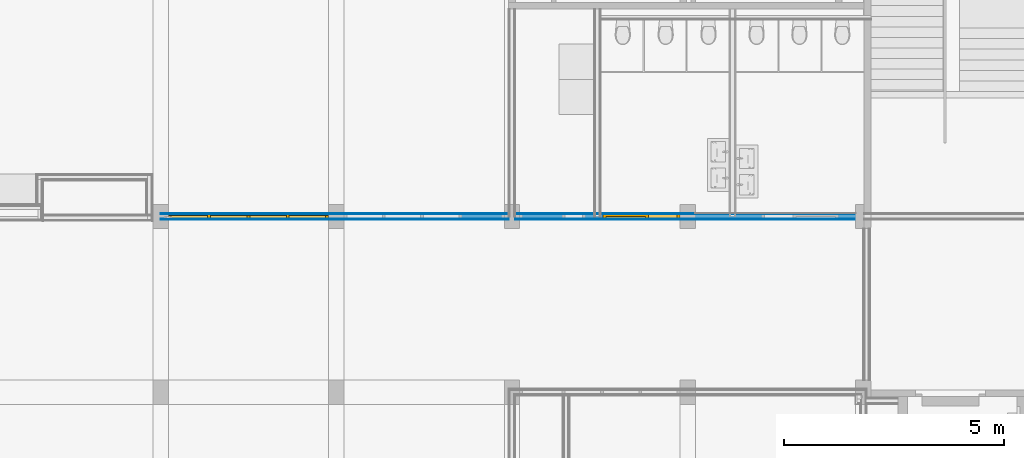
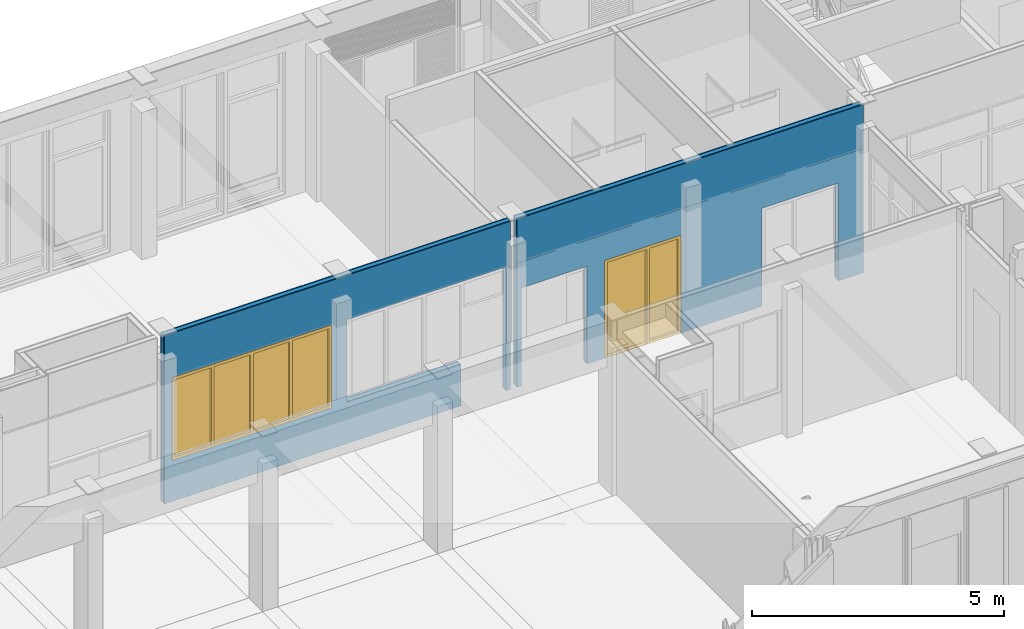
# One storey, part 61 of 109: 5 building element parts, 1 door, 1 window, 5 openings, 1 element without a shape of its own.
"""IFC2X3 building model written with IfcOpenShell, lengths in millimetres."""

from ifc_helpers import new_model, entity, si_unit, converted_unit, derived_unit, money_unit, direction, frame, origin_with_axes, place, context, subcontext, project, spatial, open_shell, faceted_brep, surface_model, material, type_object, element, fill, aggregate, save


model = new_model("IFC2X3")

# Units and contexts
model_context = context("Model", 3, precision=0.01, world=origin_with_axes(), true_north=direction((0.0, 1.0)))
body_context = subcontext(model_context, "Body", "Model", "MODEL_VIEW")
ifc_project = project(units=[si_unit("LENGTHUNIT", "METRE", prefix="MILLI"), si_unit("AREAUNIT", "SQUARE_METRE"), si_unit("VOLUMEUNIT", "CUBIC_METRE"), converted_unit("PLANEANGLEUNIT", "DEGREE", entity("IfcPlaneAngleMeasure", 0.0174532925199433), si_unit("PLANEANGLEUNIT", "RADIAN"), dimensions=[0, 0, 0, 0, 0, 0, 0]), money_unit("EUR"), converted_unit("TIMEUNIT", "Year", entity("IfcTimeMeasure", 31557600.0), si_unit("TIMEUNIT", "SECOND"), dimensions=[0, 0, 1, 0, 0, 0, 0]), si_unit("MASSUNIT", "GRAM", prefix="KILO"), si_unit("THERMODYNAMICTEMPERATUREUNIT", "DEGREE_CELSIUS"), si_unit("LUMINOUSINTENSITYUNIT", "LUMEN"), si_unit("ENERGYUNIT", "JOULE", prefix="MEGA"), derived_unit("THERMALCONDUCTANCEUNIT", [(si_unit("POWERUNIT", "WATT"), 1), (si_unit("LENGTHUNIT", "METRE"), -1), (si_unit("THERMODYNAMICTEMPERATUREUNIT", "KELVIN"), -1)]), derived_unit("SPECIFICHEATCAPACITYUNIT", [(si_unit("ENERGYUNIT", "JOULE"), 1), (si_unit("MASSUNIT", "GRAM", prefix="KILO"), -1), (si_unit("THERMODYNAMICTEMPERATUREUNIT", "KELVIN"), -1)]), derived_unit("MASSDENSITYUNIT", [(si_unit("MASSUNIT", "GRAM", prefix="KILO"), 1), (si_unit("VOLUMEUNIT", "CUBIC_METRE"), -1)])], contexts=[model_context])

# Site, building, storey
site_placement = place(None, origin_with_axes())
site = spatial("IfcSite", under=ifc_project, at=site_placement, Name="<site naam>", CompositionType="ELEMENT")
building_placement = place(site_placement, origin_with_axes())
building = spatial("IfcBuilding", under=site, at=building_placement, Name="<Naam gebouw>", CompositionType="ELEMENT")
storey_placement = place(building_placement, origin_with_axes())
storey = spatial("IfcBuildingStorey", under=building, at=storey_placement, Name="00 Begane grond", CompositionType="ELEMENT", Elevation=0.0)

# Window
window_style = type_object("IfcWindowStyle", Name="R2 bl ol 27", ConstructionType="NOTDEFINED", OperationType="DOUBLE_PANEL_VERTICAL", ParameterTakesPrecedence=False, Sizeable=False)
wall_placement = place(storey_placement, frame((32000.05040030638, 11999.96371028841, 0.0), z_axis=(0.0, 0.0, 1.0), x_axis=(0.999999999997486, 2.242345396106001e-06, 0.0)))
opening_1_placement = place(wall_placement, frame((1999.982031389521, 0.0, 1000.0), z_axis=(0.0, 0.0, 1.0), x_axis=(1.0, 0.0, 0.0)))
window_placement = place(opening_1_placement, frame((-1824.966951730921, 0.0, 0.0), z_axis=(0.0, 0.0, 1.0), x_axis=(1.0, 0.0, 0.0)))
window = element("IfcWindow", 1, at=window_placement, inside=storey, type_object=window_style, Name="22_BI-E-01_305", ObjectType="WINDOW", OverallHeight=2000.0, OverallWidth=3649.93, context=body_context, shape_type="SurfaceModel", body=[
    faceted_brep([(3582.933881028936, -85.0084266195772, 1933.0), (3649.933881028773, -85.00857685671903, 1933.0), (3649.934136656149, 28.99142314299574, 1933.0), (3582.934136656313, 28.99157338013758, 1933.0), (3582.933881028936, -85.0084266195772, 66.99999999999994), (3649.933881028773, -85.00857685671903, 66.99999999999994), (3649.934136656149, 28.99142314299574, 66.99999999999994), (3582.934136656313, 28.99157338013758, 66.99999999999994)], [[[0, 1, 2, 3]], [[0, 4, 5, 1]], [[1, 5, 6, 2]], [[3, 2, 6, 7]], [[4, 0, 3, 7]], [[5, 4, 7, 6]]]),
    faceted_brep([(66.99997757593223, -85.00054268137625, 66.99999999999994), (-2.242389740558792e-05, -85.00039244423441, 66.99999999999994), (0.0002332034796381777, 28.99960755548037, 66.99999999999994), (67.00023320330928, 28.99945731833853, 66.99999999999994), (66.99997757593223, -85.00054268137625, 1933.0), (-2.242389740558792e-05, -85.00039244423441, 1933.0), (0.0002332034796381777, 28.99960755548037, 1933.0), (67.00023320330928, 28.99945731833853, 1933.0)], [[[0, 1, 2, 3]], [[0, 4, 5, 1]], [[1, 5, 6, 2]], [[3, 2, 6, 7]], [[4, 0, 3, 7]], [[5, 4, 7, 6]]]),
    faceted_brep([(1858.466929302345, -85.00455976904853, 66.99999999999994), (1791.466929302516, -85.00440953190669, 66.99999999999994), (1791.467184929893, 28.99559046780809, 66.99999999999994), (1858.467184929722, 28.99544023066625, 66.99999999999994), (1858.466929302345, -85.00455976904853, 1933.0), (1791.466929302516, -85.00440953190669, 1933.0), (1791.467184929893, 28.99559046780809, 1933.0), (1858.467184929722, 28.99544023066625, 1933.0)], [[[0, 1, 2, 3]], [[0, 4, 5, 1]], [[1, 5, 6, 2]], [[3, 2, 6, 7]], [[4, 0, 3, 7]], [[5, 4, 7, 6]]]),
    faceted_brep([(3582.933881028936, -85.0084266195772, 66.99999999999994), (3649.933881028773, -85.00857685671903, 66.99999999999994), (3649.934136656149, 28.99142314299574, 66.99999999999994), (3582.934136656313, 28.99157338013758, 66.99999999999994), (1858.466929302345, -85.00455976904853, 66.99999999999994), (1791.466929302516, -85.00440953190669, 66.99999999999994), (66.99997757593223, -85.00054268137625, 66.99999999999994), (-2.242389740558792e-05, -85.00039244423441, 66.99999999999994), (-2.242389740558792e-05, -85.00039244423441, 0.0), (3649.933881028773, -85.00857685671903, 0.0), (3649.934136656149, 28.99142314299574, 0.0), (0.0002332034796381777, 28.99960755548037, 0.0), (0.0002332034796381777, 28.99960755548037, 66.99999999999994), (67.00023320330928, 28.99945731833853, 66.99999999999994), (1791.467184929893, 28.99559046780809, 66.99999999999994), (1858.467184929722, 28.99544023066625, 66.99999999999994)], [[[0, 1, 2, 3]], [[0, 4, 5, 6, 7, 8, 9, 1]], [[1, 9, 10, 2]], [[3, 2, 10, 11, 12, 13, 14, 15]], [[4, 0, 3, 15]], [[5, 4, 15, 14]], [[6, 5, 14, 13]], [[7, 6, 13, 12]], [[8, 7, 12, 11]], [[9, 8, 11, 10]]]),
    faceted_brep([(1858.466929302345, -85.00455976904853, 1933.0), (1791.466929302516, -85.00440953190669, 1933.0), (1791.467184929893, 28.99559046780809, 1933.0), (1858.467184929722, 28.99544023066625, 1933.0), (3582.933881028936, -85.0084266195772, 1933.0), (3649.933881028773, -85.00857685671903, 1933.0), (3649.933881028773, -85.00857685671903, 2000.0), (-2.242389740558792e-05, -85.00039244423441, 2000.0), (-2.242389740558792e-05, -85.00039244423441, 1933.0), (66.99997757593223, -85.00054268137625, 1933.0), (67.00023320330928, 28.99945731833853, 1933.0), (0.0002332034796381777, 28.99960755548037, 1933.0), (0.0002332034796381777, 28.99960755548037, 2000.0), (3649.934136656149, 28.99142314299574, 2000.0), (3649.934136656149, 28.99142314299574, 1933.0), (3582.934136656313, 28.99157338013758, 1933.0)], [[[0, 1, 2, 3]], [[0, 4, 5, 6, 7, 8, 9, 1]], [[1, 9, 10, 2]], [[3, 2, 10, 11, 12, 13, 14, 15]], [[4, 0, 3, 15]], [[5, 4, 15, 14]], [[6, 5, 14, 13]], [[7, 6, 13, 12]], [[8, 7, 12, 11]], [[9, 8, 11, 10]]]),
    surface_model("IfcShellBasedSurfaceModel", [(3582.933993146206, -35.0084266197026, 66.99999999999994), (3582.933993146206, -35.0084266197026, 1933.0), (1858.467041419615, -35.00455976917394, 1933.0), (1858.467041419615, -35.00455976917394, 66.99999999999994)], [open_shell([[[0, 1, 2, 3]]])]),
    surface_model("IfcShellBasedSurfaceModel", [(3582.93403799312, -15.00842661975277, 66.99999999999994), (1858.467086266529, -15.0045597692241, 66.99999999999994), (1858.467086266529, -15.0045597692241, 1933.0), (3582.93403799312, -15.00842661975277, 1933.0)], [open_shell([[[0, 1, 2, 3]]])]),
    faceted_brep([(2754.200411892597, -82.00656831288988, 66.99999999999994), (2687.200411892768, -82.00641807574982, 66.99999999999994), (2687.200667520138, 31.99358192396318, 66.99999999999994), (2754.200667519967, 31.99343168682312, 66.99999999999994), (2754.200411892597, -82.00656831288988, 1933.0), (2687.200411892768, -82.00641807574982, 1933.0), (2687.200667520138, 31.99358192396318, 1933.0), (2754.200667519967, 31.99343168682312, 1933.0)], [[[0, 1, 2, 3]], [[0, 4, 5, 1]], [[1, 5, 6, 2]], [[3, 2, 6, 7]], [[4, 0, 3, 7]], [[5, 4, 7, 6]]]),
    surface_model("IfcShellBasedSurfaceModel", [(1791.467041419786, -35.0044095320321, 66.99999999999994), (1791.467041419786, -35.0044095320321, 1933.0), (67.00008969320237, -35.00054268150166, 1933.0), (67.00008969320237, -35.00054268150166, 66.99999999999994)], [open_shell([[[0, 1, 2, 3]]])]),
    surface_model("IfcShellBasedSurfaceModel", [(1791.467086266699, -15.00440953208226, 66.99999999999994), (67.00013454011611, -15.00054268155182, 66.99999999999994), (67.00013454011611, -15.00054268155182, 1933.0), (1791.467086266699, -15.00440953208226, 1933.0)], [open_shell([[[0, 1, 2, 3]]])]),
    faceted_brep([(962.7334601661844, -82.00255122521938, 66.99999999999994), (895.7334601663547, -82.00240098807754, 66.99999999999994), (895.7337157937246, 31.99759901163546, 66.99999999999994), (962.7337157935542, 31.99744877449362, 66.99999999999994), (962.7334601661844, -82.00255122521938, 1933.0), (895.7334601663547, -82.00240098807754, 1933.0), (895.7337157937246, 31.99759901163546, 1933.0), (962.7337157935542, 31.99744877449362, 1933.0)], [[[0, 1, 2, 3]], [[0, 4, 5, 1]], [[1, 5, 6, 2]], [[3, 2, 6, 7]], [[4, 0, 3, 7]], [[5, 4, 7, 6]]]),
])

# Door
door_style = type_object("IfcDoorStyle", Name="D1 zl1-b 27", ConstructionType="NOTDEFINED", OperationType="SINGLE_SWING_LEFT", ParameterTakesPrecedence=False, Sizeable=False)
opening_2_placement = place(wall_placement, frame((10949.95021639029, 0.0, 0.0), z_axis=(0.0, 0.0, 1.0), x_axis=(1.0, 0.0, 0.0)))
door_placement = place(opening_2_placement, frame((-874.999999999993, 0.0, 0.0), z_axis=(0.0, 0.0, 1.0), x_axis=(1.0, 0.0, 0.0)))
door = element("IfcDoor", 2, at=door_placement, inside=storey, type_object=door_style, Name="22_BI-C-01_305", ObjectType="DOOR", OverallHeight=2367.0, OverallWidth=1750.0, context=body_context, shape_type="SurfaceModel", body=[
    faceted_brep([(984.0001659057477, -1.024797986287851, 12.00000000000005), (984.0002555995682, 38.97520201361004, 12.00000000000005), (50.00025560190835, 38.97729636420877, 11.99999999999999), (50.00016590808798, -1.022703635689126, 11.99999999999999), (67.00016590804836, -1.02274175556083, 11.99999999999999), (66.99999997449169, -75.02274175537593, 11.99999999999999), (966.9999999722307, -75.02475986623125, 12.00000000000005), (967.0001659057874, -1.024759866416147, 12.00000000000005), (984.0001659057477, -1.024797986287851, 0.0), (984.0002555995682, 38.97520201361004, 0.0), (50.00025560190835, 38.97729636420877, 0.0), (50.00016590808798, -1.022703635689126, 0.0), (67.00016590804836, -1.02274175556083, 0.0), (66.99999997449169, -75.02274175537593, 0.0), (966.9999999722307, -75.02475986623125, 0.0), (967.0001659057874, -1.024759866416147, 0.0)], [[[0, 1, 2, 3, 4, 5, 6, 7]], [[8, 9, 1, 0]], [[9, 10, 2, 1]], [[11, 3, 2, 10]], [[3, 11, 12, 4]], [[5, 4, 12, 13]], [[6, 5, 13, 14]], [[14, 15, 7, 6]], [[7, 15, 8, 0]], [[15, 14, 13, 12, 11, 10, 9, 8]]]),
    faceted_brep([(1750.000255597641, 38.97348437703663, 0.0), (1749.999999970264, -75.02651562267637, 0.0), (1682.999999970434, -75.02636538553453, 0.0), (1683.000255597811, 38.97363461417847, 0.0), (1750.000255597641, 38.97348437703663, 2300.0), (1749.999999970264, -75.0265156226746, 2300.0), (1682.999999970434, -75.02636538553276, 2300.0), (1682.999999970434, -75.02636538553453, 67.0), (1683.000255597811, 38.97363461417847, 66.99999999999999), (1683.000255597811, 38.97363461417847, 2300.0)], [[[0, 1, 2, 3]], [[4, 5, 1, 0]], [[1, 5, 6, 7, 2]], [[3, 2, 7, 8]], [[0, 3, 8, 9, 4]], [[9, 6, 5, 4]], [[8, 7, 6, 9]]]),
    faceted_brep([(967.0001659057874, -1.024759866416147, 0.0), (966.9999999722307, -75.02475986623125, 0.0), (966.9999999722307, -75.02475986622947, 2300.0), (967.0001659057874, -1.024759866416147, 2300.0), (984.0001659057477, -1.024797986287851, 0.0), (984.0002555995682, 38.97520201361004, 0.0), (1034.000255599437, 38.97508989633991, 0.0), (1033.99999997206, -75.02491010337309, 0.0), (1033.99999997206, -75.02491010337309, 66.99999999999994), (1033.99999997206, -75.02491010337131, 2300.0), (984.0001659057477, -1.024797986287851, 2300.0), (1034.000255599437, 38.97508989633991, 2300.0), (984.0002555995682, 38.97520201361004, 2300.0), (1034.000255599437, 38.97508989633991, 66.99999999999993)], [[[0, 1, 2, 3]], [[4, 5, 6, 7, 1, 0]], [[7, 8, 9, 2, 1]], [[10, 3, 2, 9, 11, 12]], [[10, 4, 0, 3]], [[12, 5, 4, 10]], [[12, 11, 13, 6, 5]], [[6, 13, 8, 7]], [[13, 11, 9, 8]]]),
    faceted_brep([(1683.000255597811, 38.97363461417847, 66.99999999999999), (1682.999999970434, -75.02636538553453, 67.0), (1682.999999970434, -75.02636538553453, 0.0), (1683.000255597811, 38.97363461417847, 0.0), (1034.000255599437, 38.97508989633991, 66.99999999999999), (1033.99999997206, -75.02491010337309, 67.0), (1033.99999997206, -75.02491010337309, 0.0), (1034.000255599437, 38.97508989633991, 0.0)], [[[0, 1, 2, 3]], [[4, 5, 1, 0]], [[1, 5, 6, 2]], [[3, 2, 6, 7]], [[0, 3, 7, 4]], [[7, 6, 5, 4]]]),
    faceted_brep([(50.00016590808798, -1.022703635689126, 2300.0), (50.00025560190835, 38.97729636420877, 2300.0), (0.0002556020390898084, 38.9774084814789, 2300.0), (-2.533795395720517e-08, -75.02259151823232, 2300.0), (66.99999997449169, -75.02274175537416, 2300.0), (67.00016590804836, -1.02274175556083, 2300.0), (50.00016590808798, -1.022703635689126, 0.0), (50.00025560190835, 38.97729636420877, 0.0), (0.0002556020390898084, 38.9774084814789, 0.0), (-2.533795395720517e-08, -75.0225915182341, 0.0), (66.99999997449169, -75.02274175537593, 0.0), (67.00016590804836, -1.02274175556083, 0.0)], [[[0, 1, 2, 3, 4, 5]], [[0, 6, 7, 1]], [[7, 8, 2, 1]], [[2, 8, 9, 3]], [[3, 9, 10, 4]], [[5, 4, 10, 11]], [[5, 11, 6, 0]], [[6, 11, 10, 9, 8, 7]]]),
    faceted_brep([(984.0002555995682, 38.97520201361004, 2317.0), (50.00025560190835, 38.97729636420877, 2317.0), (50.00025560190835, 38.97729636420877, 2300.0), (0.0002556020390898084, 38.9774084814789, 2300.0), (0.0002556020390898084, 38.9774084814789, 2367.0), (1750.000255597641, 38.97348437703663, 2367.0), (1750.000255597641, 38.97348437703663, 2300.0), (1683.000255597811, 38.97363461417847, 2300.0), (1034.000255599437, 38.97508989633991, 2300.0), (984.0002555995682, 38.97520201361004, 2300.0), (984.0001659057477, -1.024797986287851, 2317.0), (50.00016590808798, -1.022703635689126, 2317.0), (50.00016590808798, -1.022703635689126, 2300.0), (67.00016590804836, -1.02274175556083, 2300.0), (66.99999997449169, -75.02274175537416, 2300.0), (-2.533795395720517e-08, -75.02259151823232, 2300.0), (-2.533795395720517e-08, -75.02259151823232, 2367.0), (1749.999999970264, -75.0265156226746, 2367.0), (1749.999999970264, -75.0265156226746, 2300.0), (1682.999999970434, -75.02636538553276, 2300.0), (1033.99999997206, -75.02491010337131, 2300.0), (984.0001659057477, -1.024797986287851, 2300.0), (966.9999999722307, -75.02475986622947, 2300.0)], [[[0, 1, 2, 3, 4, 5, 6, 7, 8, 9]], [[0, 10, 11, 1]], [[1, 11, 12, 2]], [[12, 13, 14, 15, 3, 2]], [[4, 3, 15, 16]], [[5, 4, 16, 17]], [[6, 5, 17, 18]], [[7, 6, 18, 19]], [[8, 7, 19, 20]], [[21, 9, 8, 20, 22, 14, 13]], [[9, 21, 10, 0]], [[12, 11, 10, 21, 13]], [[14, 22, 20, 19, 18, 17, 16, 15]]]),
    faceted_brep([(50.00025560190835, 38.97729636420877, 11.99999999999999), (984.0002555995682, 38.97520201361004, 11.99999999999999), (984.0001659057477, -1.024797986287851, 11.99999999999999), (50.00016590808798, -1.022703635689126, 11.99999999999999), (50.00025560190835, 38.97729636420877, 2317.0), (984.0002555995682, 38.97520201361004, 2317.0), (984.0001659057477, -1.024797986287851, 2317.0), (50.00016590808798, -1.022703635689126, 2317.0)], [[[0, 1, 2, 3]], [[0, 4, 5, 1]], [[1, 5, 6, 2]], [[3, 2, 6, 7]], [[4, 0, 3, 7]], [[5, 4, 7, 6]]]),
    surface_model("IfcShellBasedSurfaceModel", [(1683.000134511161, -15.02636538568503, 66.99999999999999), (1034.000134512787, -15.02491010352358, 66.99999999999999), (1034.000134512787, -15.02491010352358, 2300.0), (1683.000134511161, -15.02636538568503, 2300.0)], [open_shell([[[0, 1, 2, 3]]])]),
    surface_model("IfcShellBasedSurfaceModel", [(1683.000107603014, -27.02636538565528, 66.99999999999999), (1683.000107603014, -27.02636538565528, 2300.0), (1034.000107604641, -27.02491010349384, 2300.0), (1034.000107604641, -27.02491010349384, 66.99999999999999)], [open_shell([[[0, 1, 2, 3]]])]),
])

# Wall, opening
wall_type = type_object("IfcWallType", Name="MS-01 GF 150 ECO DGS/2.100.2.A 150", PredefinedType="NOTDEFINED")
wall = element("IfcWall", 3, at=wall_placement, inside=storey, type_object=wall_type, Name="22_Binnenwand_MS-01")
opening_1 = element("IfcOpeningElement", 4, at=opening_1_placement, cuts=wall, Name="22_BI-E-01_305", context=body_context, shape_type="Brep", body=[
    faceted_brep([(1824.967290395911, 76.02730055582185, 2000.0), (1824.967290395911, 76.02730055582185, 0.0), (-1824.966613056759, 76.03548496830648, 0.0), (-1824.966613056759, 76.03548496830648, 2000.0), (1824.966949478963, -76.00857685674, 2000.0), (1824.966949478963, -76.00857685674, 0.0), (-1824.966953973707, -76.00039244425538, 0.0), (-1824.966953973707, -76.00039244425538, 2000.0)], [[[0, 1, 2, 3]], [[4, 5, 1, 0]], [[5, 6, 2, 1]], [[6, 7, 3, 2]], [[7, 4, 0, 3]], [[6, 5, 4, 7]]]),
])

fill(opening_1, window)

# Opening
opening_2 = element("IfcOpeningElement", 5, at=opening_2_placement, cuts=wall, Name="22_BI-C-01_305", context=body_context, shape_type="Brep", body=[
    faceted_brep([(875.0003386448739, 76.00936178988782, 2367.0), (875.0003386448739, 76.00936178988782, 0.0), (-874.9996613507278, 76.0132858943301, 0.0), (-874.9996613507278, 76.0132858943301, 2367.0), (874.9999977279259, -76.02651562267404, 2367.0), (874.9999977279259, -76.02651562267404, 0.0), (-875.0000022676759, -76.02259151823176, 0.0), (-875.0000022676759, -76.02259151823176, 2367.0)], [[[0, 1, 2, 3]], [[4, 5, 1, 0]], [[5, 6, 2, 1]], [[6, 7, 3, 2]], [[7, 4, 0, 3]], [[6, 5, 4, 7]]]),
])

fill(opening_2, door)

opening_3_placement = place(wall_placement, frame((8924.950216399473, 0.0, 0.0), z_axis=(0.0, 0.0, 1.0), x_axis=(1.0, 0.0, 0.0)))
element("IfcOpeningElement", 6, at=opening_3_placement, cuts=wall, Name="22_BI-C-02 sp_305", context=body_context, shape_type="Brep", body=[
    faceted_brep([(750.000338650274, 76.0141828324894, 2367.0), (750.000338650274, 76.0141828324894, 0.0), (-749.99966134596, 76.01754635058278, 0.0), (-749.99966134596, 76.01754635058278, 2367.0), (749.999997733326, -76.02169458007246, 2367.0), (749.999997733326, -76.02169458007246, 0.0), (-750.0000022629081, -76.01833106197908, 0.0), (-750.0000022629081, -76.01833106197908, 2367.0)], [[[0, 1, 2, 3]], [[4, 5, 1, 0]], [[5, 6, 2, 1]], [[6, 7, 3, 2]], [[7, 4, 0, 3]], [[6, 5, 4, 7]]]),
])

opening_4_placement = place(wall_placement, frame((14554.32530861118, 0.0, 0.0), z_axis=(0.0, 0.0, 1.0), x_axis=(1.0, 0.0, 0.0)))
element("IfcOpeningElement", 7, at=opening_4_placement, cuts=wall, Name="22_BI-C-01 sp_305", context=body_context, shape_type="Brep", body=[
    faceted_brep([(875.0003386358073, 76.00127953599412, 2367.0), (875.0003386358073, 76.00127953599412, 0.0), (-874.9996613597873, 76.00520364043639, 0.0), (-874.9996613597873, 76.00520364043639, 2367.0), (874.9999977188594, -76.03459787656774, 2367.0), (874.9999977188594, -76.03459787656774, 0.0), (-875.0000022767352, -76.03067377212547, 0.0), (-875.0000022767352, -76.03067377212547, 2367.0)], [[[0, 1, 2, 3]], [[4, 5, 1, 0]], [[5, 6, 2, 1]], [[6, 7, 3, 2]], [[7, 4, 0, 3]], [[6, 5, 4, 7]]]),
])

opening_5_placement = place(wall_placement, frame((5999.95021640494, 0.0, 0.0), z_axis=(0.0, 0.0, 1.0), x_axis=(1.0, 0.0, 0.0)))
element("IfcOpeningElement", 8, at=opening_5_placement, cuts=wall, Name="22_BI-E-02_305", context=body_context, shape_type="Brep", body=[
    faceted_brep([(1825.000338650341, 76.01833117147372, 3000.0), (1825.000338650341, 76.01833117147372, 0.0), (791.0003386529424, 76.02064975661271, 0.0), (791.0003386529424, 76.02064975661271, 1000.0), (-1824.999661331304, 76.02651573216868, 1000.0), (-1824.999661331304, 76.02651573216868, 3000.0), (1824.999997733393, -76.01754624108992, 3000.0), (1824.999997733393, -76.01754624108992, 0.0), (790.9999977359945, -76.01522765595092, 0.0), (790.9999977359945, -76.01522765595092, 1000.0), (-1825.000002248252, -76.00936168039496, 1000.0), (-1825.000002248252, -76.00936168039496, 3000.0)], [[[0, 1, 2, 3, 4, 5]], [[6, 7, 1, 0]], [[7, 8, 2, 1]], [[8, 9, 3, 2]], [[9, 10, 4, 3]], [[10, 11, 5, 4]], [[11, 6, 0, 5]], [[8, 7, 6, 11, 10, 9]]]),
])

# Building element part
ifc_material_1 = material(Name="gipsplaat")
building_element_part_1_placement = place(wall_placement, origin_with_axes())
building_element_part_1 = element("IfcBuildingElementPart", 9, at=building_element_part_1_placement, material=ifc_material_1, Name="gipsplaat", context=body_context, shape_type="Brep", body=[
    faceted_brep([(8174.949767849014, 74.98166893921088, 3.000000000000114), (8174.949767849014, 74.98166893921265, 0.0), (8074.949767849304, 74.98189317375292, 0.0), (8074.949767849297, 74.98189317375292, 3000.0), (9874.949767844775, 74.97785695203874, 3000.0), (9874.949767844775, 74.97785695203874, 3040.0), (8074.949767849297, 74.98189317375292, 3040.0), (8074.949767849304, 74.98189317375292, 4070.0), (15999.94976787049, 74.9641225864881, 4070.0), (15999.94976787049, 74.9641225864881, 3040.0), (10024.9497678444, 74.97752060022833, 3040.0), (10024.9497678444, 74.97752060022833, 3000.0), (15999.94976787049, 74.9641225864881, 3000.0), (15999.94976787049, 74.9641225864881, 0.0), (9874.949767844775, 74.97785695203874, 0.0), (9874.949767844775, 74.97785695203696, 3.000000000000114), (8174.949764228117, 73.3668869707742, 3.000000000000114), (8174.949764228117, 73.3668869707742, 0.0), (9874.949764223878, 73.36307498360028, 0.0), (15999.94973984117, 62.46412258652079, 0.0), (8074.949739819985, 62.48189317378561, 0.0), (8074.949765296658, 73.84351580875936, 3000.0), (8074.949739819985, 62.48189317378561, 4070.0), (8074.949765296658, 73.84351580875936, 3040.0), (9874.949765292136, 73.83947958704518, 3000.0), (9874.949765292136, 73.83947958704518, 3040.0), (15999.94973984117, 62.46412258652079, 4070.0), (15999.94976531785, 73.82574522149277, 3000.0), (15999.94976531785, 73.82574522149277, 3040.0), (10024.94976529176, 73.83914323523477, 3040.0), (10024.94976529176, 73.83914323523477, 3000.0), (9874.949764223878, 73.36307498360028, 3.000000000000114)], [[[0, 1, 2, 3, 4, 5, 6, 7, 8, 9, 10, 11, 12, 13, 14, 15]], [[1, 0, 16, 17]], [[18, 14, 13, 19, 20, 2, 1, 17]], [[21, 3, 2, 20, 22, 7, 6, 23]], [[4, 3, 21, 24]], [[5, 4, 24, 25]], [[6, 5, 25, 23]], [[22, 26, 8, 7]], [[27, 28, 9, 8, 26, 19, 13, 12]], [[10, 9, 28, 29]], [[11, 10, 29, 30]], [[27, 12, 11, 30]], [[15, 14, 18, 31]], [[0, 15, 31, 16]], [[18, 17, 16, 31]], [[20, 19, 26, 22]], [[21, 23, 25, 24]], [[28, 27, 30, 29]]]),
    faceted_brep([(12174.94982266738, 74.85548343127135, 3560.0), (12174.94982266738, 74.85548343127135, 3600.0), (12174.94981983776, 73.59358608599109, 3600.0), (12174.94981983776, 73.59358608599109, 3560.0), (15824.94983563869, 74.8472988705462, 3560.0), (15824.94983563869, 74.8472988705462, 3600.0), (15824.94983280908, 73.58540152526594, 3600.0), (15824.94983280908, 73.58540152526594, 3560.0)], [[[0, 1, 2, 3]], [[4, 5, 1, 0]], [[1, 5, 6, 2]], [[3, 2, 6, 7]], [[0, 3, 7, 4]], [[7, 6, 5, 4]]]),
    faceted_brep([(7924.949767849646, 74.98222952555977, 3.000000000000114), (0.0001681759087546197, 74.99999999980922, 3.000000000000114), (0.0001681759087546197, 74.999999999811, 4070.0), (7924.949767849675, 74.98222952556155, 4070.0), (7824.811571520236, 74.98245406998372, 3700.0), (7824.949806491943, 74.982453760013, 3700.0), (7824.949806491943, 74.982453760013, 3740.0), (7824.811571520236, 74.98245406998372, 3740.0), (7924.949739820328, 62.48222952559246, 3.000000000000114), (0.0001401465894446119, 62.4999999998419, 3.000000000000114), (0.0001401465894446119, 62.4999999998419, 4070.0), (7924.949739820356, 62.48222952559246, 4070.0), (7824.811552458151, 66.48149438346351, 3700.0), (7824.949787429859, 66.4814940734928, 3700.0), (7824.949787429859, 66.4814940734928, 3740.0), (7824.811552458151, 66.48149438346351, 3740.0)], [[[0, 1, 2, 3], [4, 5, 6, 7]], [[1, 0, 8, 9]], [[1, 9, 10, 2]], [[11, 3, 2, 10]], [[8, 0, 3, 11]], [[5, 4, 12, 13]], [[6, 5, 13, 14]], [[7, 6, 14, 15]], [[4, 7, 15, 12]], [[9, 8, 11, 10]], [[12, 15, 14, 13]]]),
])

building_element_part_2_placement = place(wall_placement, origin_with_axes())
building_element_part_2 = element("IfcBuildingElementPart", 10, at=building_element_part_2_placement, material=ifc_material_1, Name="gipsplaat", context=body_context, shape_type="Brep", body=[
    faceted_brep([(8074.949711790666, 49.98189317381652, 4070.0), (15999.94971181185, 49.9641225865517, 4070.0), (15999.94973984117, 62.46412258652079, 4070.0), (8074.949739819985, 62.48189317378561, 4070.0), (8074.949711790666, 49.98189317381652, 0.0), (15999.94971181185, 49.9641225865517, 0.0), (15999.94973984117, 62.46412258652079, 0.0), (8074.949739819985, 62.48189317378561, 0.0)], [[[0, 1, 2, 3]], [[4, 5, 1, 0]], [[2, 1, 5, 6]], [[3, 2, 6, 7]], [[4, 0, 3, 7]], [[7, 6, 5, 4]]]),
    faceted_brep([(7924.949711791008, 49.98222952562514, 3.000000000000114), (7924.949739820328, 62.48222952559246, 3.000000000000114), (7924.949739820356, 62.48222952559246, 4070.0), (7924.949711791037, 49.98222952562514, 4070.0), (0.0001401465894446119, 62.4999999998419, 3.000000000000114), (0.000112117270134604, 49.99999999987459, 3.000000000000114), (0.0001401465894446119, 62.4999999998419, 4070.0), (0.000112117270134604, 49.99999999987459, 4070.0)], [[[0, 1, 2, 3]], [[4, 1, 0, 5]], [[1, 4, 6, 2]], [[3, 2, 6, 7]], [[5, 0, 3, 7]], [[4, 5, 7, 6]]]),
])

building_element_part_3_placement = place(wall_placement, origin_with_axes())
building_element_part_3 = element("IfcBuildingElementPart", 11, at=building_element_part_3_placement, material=ifc_material_1, Name="gipsplaat", context=body_context, shape_type="Brep", body=[
    faceted_brep([(8074.949459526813, -62.51810682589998, 4070.0), (15999.949459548, -62.5358774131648, 4070.0), (15999.94948757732, -50.03587741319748, 4070.0), (8074.949487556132, -50.01810682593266, 4070.0), (8074.949459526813, -62.51810682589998, 0.0), (15999.949459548, -62.5358774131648, 0.0), (15999.94948757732, -50.03587741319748, 0.0), (8074.949487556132, -50.01810682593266, 0.0)], [[[0, 1, 2, 3]], [[4, 5, 1, 0]], [[2, 1, 5, 6]], [[3, 2, 6, 7]], [[4, 0, 3, 7]], [[7, 6, 5, 4]]]),
    faceted_brep([(7924.949459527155, -62.51777047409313, 3.000000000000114), (7924.949487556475, -50.01777047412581, 3.000000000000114), (7924.949487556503, -50.01777047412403, 4070.0), (7924.949459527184, -62.51777047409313, 4070.0), (-0.0001121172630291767, -49.99999999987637, 3.000000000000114), (-0.0001401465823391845, -62.49999999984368, 3.000000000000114), (-0.0001121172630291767, -49.99999999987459, 4070.0), (-0.0001401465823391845, -62.49999999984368, 4070.0)], [[[0, 1, 2, 3]], [[4, 1, 0, 5]], [[1, 4, 6, 2]], [[3, 2, 6, 7]], [[5, 0, 3, 7]], [[4, 5, 7, 6]]]),
])

building_element_part_4_placement = place(wall_placement, origin_with_axes())
building_element_part_4 = element("IfcBuildingElementPart", 12, at=building_element_part_4_placement, material=ifc_material_1, Name="gipsplaat", context=body_context, shape_type="Brep", body=[
    faceted_brep([(15999.94943160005, -74.99958850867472, 3.000000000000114), (15999.94943160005, -74.99958850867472, 0.0), (15999.949459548, -62.5358774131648, 0.0), (15999.949459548, -62.5358774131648, 4070.0), (15999.94943151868, -75.03587741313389, 4070.0), (15999.94943151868, -75.03587741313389, 3040.0), (15999.94943951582, -71.46945885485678, 3040.0), (15999.94943951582, -71.46945885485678, 3000.0), (15999.94943151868, -75.03587741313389, 3000.0), (15999.94943151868, -75.03587741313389, 3.000000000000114), (8074.949431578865, -74.9818179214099, 3.000000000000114), (8074.949431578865, -74.9818179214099, 0.0), (8074.949459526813, -62.51810682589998, 0.0), (8074.949459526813, -62.51810682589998, 4070.0), (8074.949431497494, -75.01810682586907, 4070.0), (8074.949431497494, -75.01810682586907, 3040.0), (8074.949439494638, -71.45168826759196, 3040.0), (8074.949439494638, -71.45168826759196, 3000.0), (8074.949431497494, -75.01810682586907, 3000.0), (8074.949431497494, -75.01810682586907, 3.000000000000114)], [[[0, 1, 2, 3, 4, 5, 6, 7, 8, 9]], [[1, 0, 10, 11]], [[1, 11, 12, 2]], [[13, 3, 2, 12]], [[14, 4, 3, 13]], [[15, 5, 4, 14]], [[6, 5, 15, 16]], [[7, 6, 16, 17]], [[8, 7, 17, 18]], [[19, 9, 8, 18]], [[0, 9, 19, 10]], [[10, 19, 18, 17, 16, 15, 14, 13, 12, 11]]]),
    faceted_brep([(7924.949431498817, -75.01733463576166, 3.000000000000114), (7924.949459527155, -62.51777047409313, 3.000000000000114), (7924.949459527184, -62.51777047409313, 4070.0), (7924.949431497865, -75.01777047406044, 4070.0), (7924.949431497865, -75.01777047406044, 3040.0), (7924.949439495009, -71.45135191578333, 3040.0), (7924.949439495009, -71.45135191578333, 3000.0), (7924.949431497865, -75.01777047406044, 3000.0), (-0.0001401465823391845, -62.49999999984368, 3.000000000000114), (-0.000168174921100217, -74.99956416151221, 3.000000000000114), (-0.0001401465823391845, -62.49999999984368, 4070.0), (-0.0001681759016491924, -74.999999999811, 4070.0), (7824.811232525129, -75.01754592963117, 3000.0), (7824.811232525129, -75.01754592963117, 3040.0), (7824.811240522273, -71.45112737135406, 3040.0), (7824.811240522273, -71.45112737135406, 3000.0)], [[[0, 1, 2, 3, 4, 5, 6, 7]], [[8, 1, 0, 9]], [[1, 8, 10, 2]], [[3, 2, 10, 11]], [[9, 0, 7, 12, 13, 4, 3, 11]], [[5, 4, 13, 14]], [[6, 5, 14, 15]], [[7, 6, 15, 12]], [[8, 9, 11, 10]], [[13, 12, 15, 14]]]),
])

ifc_material_2 = material(Name="isolatie_steenwol LSW")
building_element_part_5_placement = place(wall_placement, origin_with_axes())
building_element_part_5 = element("IfcBuildingElementPart", 13, at=building_element_part_5_placement, material=ifc_material_2, Name="isolatie_steenwol LSW", context=body_context, shape_type="Brep", body=[
    faceted_brep([(8074.949487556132, -50.01810682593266, 4070.0), (15999.94948757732, -50.03587741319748, 4070.0), (15999.94971181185, 49.9641225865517, 4070.0), (8074.949711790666, 49.98189317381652, 4070.0), (8074.949487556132, -50.01810682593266, 0.0), (15999.94948757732, -50.03587741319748, 0.0), (15999.94971181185, 49.9641225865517, 0.0), (8074.949711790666, 49.98189317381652, 0.0)], [[[0, 1, 2, 3]], [[4, 5, 1, 0]], [[2, 1, 5, 6]], [[3, 2, 6, 7]], [[4, 0, 3, 7]], [[7, 6, 5, 4]]]),
    faceted_brep([(7924.949487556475, -50.01777047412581, 3.000000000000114), (7924.949711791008, 49.98222952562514, 3.000000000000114), (7924.949711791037, 49.98222952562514, 4070.0), (7924.949487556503, -50.01777047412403, 4070.0), (0.000112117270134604, 49.99999999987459, 3.000000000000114), (-0.0001121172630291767, -49.99999999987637, 3.000000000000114), (0.000112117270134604, 49.99999999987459, 4070.0), (-0.0001121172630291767, -49.99999999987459, 4070.0)], [[[0, 1, 2, 3]], [[4, 1, 0, 5]], [[1, 4, 6, 2]], [[3, 2, 6, 7]], [[5, 0, 3, 7]], [[4, 5, 7, 6]]]),
])

aggregate(wall, [building_element_part_1, building_element_part_2, building_element_part_3, building_element_part_4, building_element_part_5])

save(model, "model.ifc")
